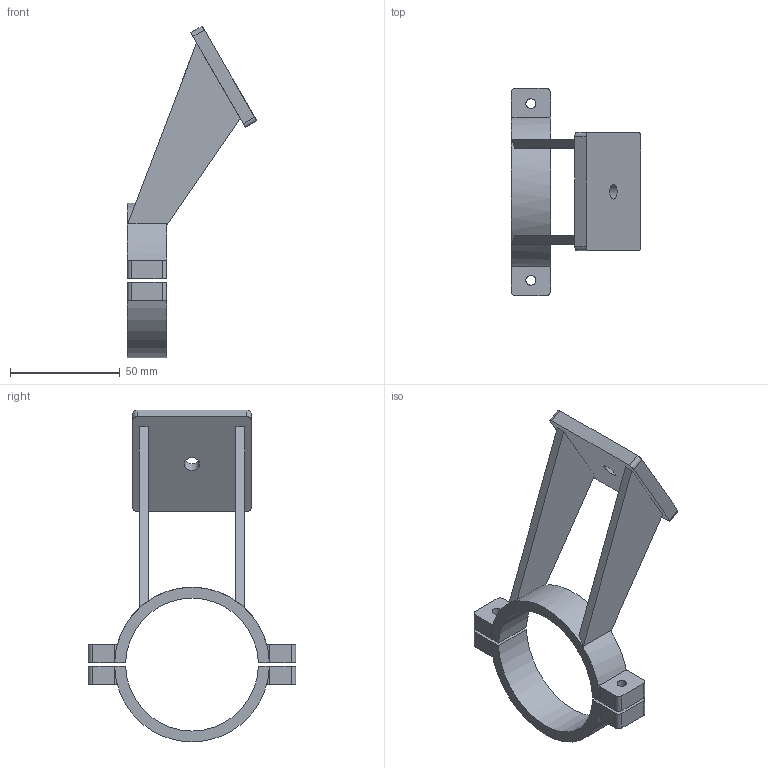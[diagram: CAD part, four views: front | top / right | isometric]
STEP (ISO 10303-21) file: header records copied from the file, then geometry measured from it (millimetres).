
FILE_DESCRIPTION(('Open CASCADE Model'),'2;1');
FILE_NAME('Open CASCADE Shape Model','2026-09-19T10:08:24',('Author'),( 'Open CASCADE'),'Open CASCADE STEP processor 7.9','Open CASCADE 7.9' ,'Unknown');
FILE_SCHEMA(('AUTOMOTIVE_DESIGN { 1 0 10303 214 1 1 1 1 }'));
Length unit declared in the file: millimetre
Products named in the file (3): fixed_webcam_60mm; upper; lower
Assembly tree (2 placements, depth 2):
  fixed_webcam_60mm
    upper
    lower
Bounding box: 59.22 x 94.6 x 151.45 mm (x, y, z)
Volume: 55033.3 mm3; surface area: 27107.1 mm2
Topology: 2 solids, 2 shells, 81 faces, 225 edges, 150 vertices
Faces by surface type: plane 52, cylinder 29
Full cylindrical faces by diameter (mm): 4.5 x4, 6.8 x1
Entity records: 6031 total; most frequent: CARTESIAN_POINT 1639, DIRECTION 765, ORIENTED_EDGE 450, PCURVE 450, DEFINITIONAL_REPRESENTATION 450, LINE 441, VECTOR 441, EDGE_CURVE 225
